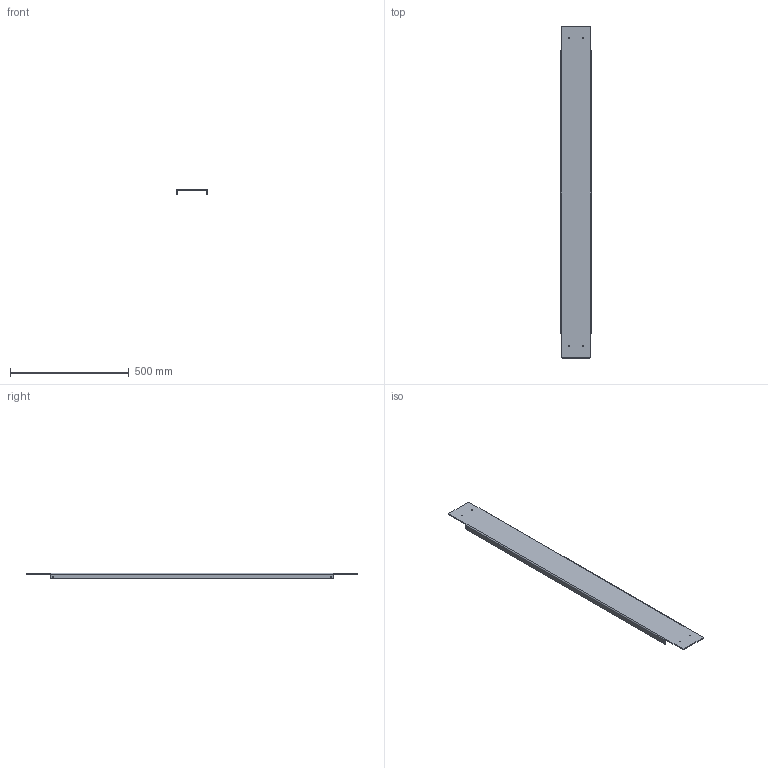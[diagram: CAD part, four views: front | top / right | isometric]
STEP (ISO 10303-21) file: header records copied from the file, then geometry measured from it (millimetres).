
FILE_DESCRIPTION(('HOOPS Exchange Step'),'2;1');
FILE_NAME('/private/var/mobile/Containers/Data/Application/E4481369-A8C6-45C6-A958-B1853E49479D/tmp/export/temp_export','2021-04-12T21:11:04+00:00',('mobile'),('Shapr3D Limited'),'HOOPS Exchange 2020.2','Shapr3D','Authorized');
FILE_SCHEMA( ('AP203_CONFIGURATION_CONTROLLED_3D_DESIGN_OF_MECHANICAL_PARTS_AND_ASSEMBLIES_MIM_LF') );
Length unit declared in the file: millimetre
Products named in the file (2): 0; /private/var/mobile/Containers/Data/Application/E4481369-A8C6-45C6-A958-B1853E49479D/tmp/E35009C7-472E-4A08-A10D-11D6CB8D10D1.tmp
Assembly tree (1 placements, depth 2):
  /private/var/mobile/Containers/Data/Application/E4481369-A8C6-45C6-A958-B1853E49479D/tmp/E35009C7-472E-4A08-A10D-11D6CB8D10D1.tmp
    0
Bounding box: 130 x 1400 x 24 mm (x, y, z)
Volume: 897434.9 mm3; surface area: 461765.9 mm2
Topology: 1 solids, 1 shells, 38 faces, 112 edges, 76 vertices
Faces by surface type: cylinder 20, plane 18
Full cylindrical faces by diameter (mm): 5.2 x8
Entity records: 1379 total; most frequent: DIRECTION 246, CARTESIAN_POINT 229, ORIENTED_EDGE 224, EDGE_CURVE 112, AXIS2_PLACEMENT_3D 93, VERTEX_POINT 76, VECTOR 60, LINE 60
